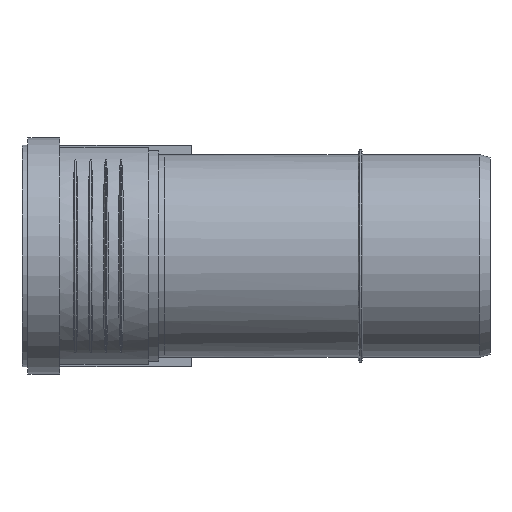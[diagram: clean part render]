
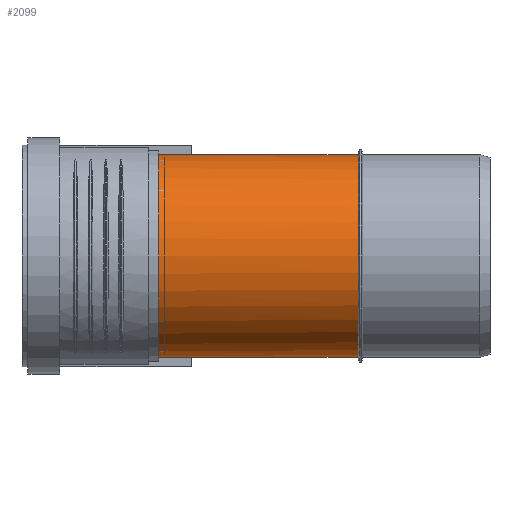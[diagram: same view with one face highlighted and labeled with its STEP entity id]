
A CAD part, left-side view. The second image highlights one B-rep face of the part: STEP entity #2099.
In plain terms, the highlighted cylindrical face has radius 55.1 mm (diameter 110.2 mm), a full revolution.
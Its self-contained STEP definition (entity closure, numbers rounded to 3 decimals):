
#238=FACE_BOUND($,#474,.T.);
#309=CYLINDRICAL_SURFACE($,#2248,55.1);
#350=FACE_OUTER_BOUND($,#473,.T.);
#473=EDGE_LOOP($,(#1385,#1386));
#474=EDGE_LOOP($,(#1387));
#657=CIRCLE($,#2249,55.1);
#658=CIRCLE($,#2250,55.1);
#759=B_SPLINE_CURVE_WITH_KNOTS($,3,(#3269,#3270,#3271,#3272,#3273,#3274,
#3275,#3276,#3277,#3278,#3279,#3280,#3281,#3282,#3283,#3284,#3285,#3286,
#3287,#3288,#3289,#3290,#3291,#3292,#3293,#3294,#3295,#3296,#3297,#3298,
#3299,#3300,#3301,#3302,#3303,#3304,#3305,#3306,#3307,#3308),
 .UNSPECIFIED.,.F.,.F.,(4,2,2,2,2,2,2,2,2,2,2,2,2,2,2,2,2,2,2,4),(0.,1.705,
3.341,4.671,6.106,8.116,11.431,
13.635,15.317,16.372,17.354,18.712,
20.313,22.585,25.91,28.179,29.961,
31.68,33.085,34.827),.UNSPECIFIED.);
#867=VERTEX_POINT($,#3253);
#868=VERTEX_POINT($,#3254);
#871=VERTEX_POINT($,#3316);
#1084=EDGE_CURVE($,#868,#867,#759,.T.);
#1087=EDGE_CURVE($,#867,#868,#657,.T.);
#1088=EDGE_CURVE($,#871,#871,#658,.T.);
#1385=ORIENTED_EDGE($,*,*,#1084,.T.);
#1386=ORIENTED_EDGE($,*,*,#1087,.T.);
#1387=ORIENTED_EDGE($,*,*,#1088,.F.);
#2099=ADVANCED_FACE($,(#350,#238),#309,.T.);
#2248=AXIS2_PLACEMENT_3D($,#3314,#2514,#2515);
#2249=AXIS2_PLACEMENT_3D($,#3315,#2516,#2517);
#2250=AXIS2_PLACEMENT_3D($,#3317,#2518,#2519);
#2514=DIRECTION('center_axis',(0.,1.,0.));
#2515=DIRECTION('ref_axis',(-1.,0.,0.));
#2516=DIRECTION('center_axis',(0.,1.,0.));
#2517=DIRECTION('ref_axis',(-1.,0.,0.));
#2518=DIRECTION('center_axis',(0.,1.,0.));
#2519=DIRECTION('ref_axis',(-1.,0.,0.));
#3253=CARTESIAN_POINT('',(53.237,71.6,-14.208));
#3254=CARTESIAN_POINT('',(53.237,71.6,14.208));
#3269=CARTESIAN_POINT('Ctrl Pts',(53.237,71.6,14.208));
#3270=CARTESIAN_POINT('Ctrl Pts',(51.802,72.755,19.585));
#3271=CARTESIAN_POINT('Ctrl Pts',(49.647,74.554,24.355));
#3272=CARTESIAN_POINT('Ctrl Pts',(44.92,79.398,32.224));
#3273=CARTESIAN_POINT('Ctrl Pts',(42.362,82.399,35.395));
#3274=CARTESIAN_POINT('Ctrl Pts',(38.172,89.277,39.829));
#3275=CARTESIAN_POINT('Ctrl Pts',(36.565,92.733,41.248));
#3276=CARTESIAN_POINT('Ctrl Pts',(34.115,100.714,43.301));
#3277=CARTESIAN_POINT('Ctrl Pts',(33.412,105.09,43.814));
#3278=CARTESIAN_POINT('Ctrl Pts',(32.921,115.795,44.185));
#3279=CARTESIAN_POINT('Ctrl Pts',(33.609,122.188,43.691));
#3280=CARTESIAN_POINT('Ctrl Pts',(36.825,138.226,41.069));
#3281=CARTESIAN_POINT('Ctrl Pts',(40.404,148.062,37.955));
#3282=CARTESIAN_POINT('Ctrl Pts',(46.489,161.9,29.852));
#3283=CARTESIAN_POINT('Ctrl Pts',(48.838,166.537,25.971));
#3284=CARTESIAN_POINT('Ctrl Pts',(52.184,172.844,18.074));
#3285=CARTESIAN_POINT('Ctrl Pts',(53.422,175.05,14.187));
#3286=CARTESIAN_POINT('Ctrl Pts',(54.701,177.297,7.168));
#3287=CARTESIAN_POINT('Ctrl Pts',(55.003,177.818,4.355));
#3288=CARTESIAN_POINT('Ctrl Pts',(55.152,178.076,-1.202));
#3289=CARTESIAN_POINT('Ctrl Pts',(55.027,177.861,-3.864));
#3290=CARTESIAN_POINT('Ctrl Pts',(54.292,176.58,-10.08));
#3291=CARTESIAN_POINT('Ctrl Pts',(53.529,175.247,-13.462));
#3292=CARTESIAN_POINT('Ctrl Pts',(51.394,171.371,-20.236));
#3293=CARTESIAN_POINT('Ctrl Pts',(49.956,168.687,-23.463));
#3294=CARTESIAN_POINT('Ctrl Pts',(46.284,161.375,-30.235));
#3295=CARTESIAN_POINT('Ctrl Pts',(43.945,156.352,-33.4));
#3296=CARTESIAN_POINT('Ctrl Pts',(38.681,143.223,-39.533));
#3297=CARTESIAN_POINT('Ctrl Pts',(35.824,134.382,-41.909));
#3298=CARTESIAN_POINT('Ctrl Pts',(33.27,119.36,-43.942));
#3299=CARTESIAN_POINT('Ctrl Pts',(32.82,112.961,-44.265));
#3300=CARTESIAN_POINT('Ctrl Pts',(33.857,101.897,-43.474));
#3301=CARTESIAN_POINT('Ctrl Pts',(34.943,97.24,-42.665));
#3302=CARTESIAN_POINT('Ctrl Pts',(38.336,88.785,-39.64));
#3303=CARTESIAN_POINT('Ctrl Pts',(40.481,85.23,-37.554));
#3304=CARTESIAN_POINT('Ctrl Pts',(44.616,79.755,-32.467));
#3305=CARTESIAN_POINT('Ctrl Pts',(46.49,77.736,-29.779));
#3306=CARTESIAN_POINT('Ctrl Pts',(50.268,74.03,-22.971));
#3307=CARTESIAN_POINT('Ctrl Pts',(52.027,72.573,-18.74));
#3308=CARTESIAN_POINT('Ctrl Pts',(53.237,71.6,-14.208));
#3314=CARTESIAN_POINT('Origin',(0.,128.73,0.));
#3315=CARTESIAN_POINT('Origin',(0.,71.6,0.));
#3316=CARTESIAN_POINT('',(-55.1,185.86,0.));
#3317=CARTESIAN_POINT('Origin',(0.,185.86,0.));
